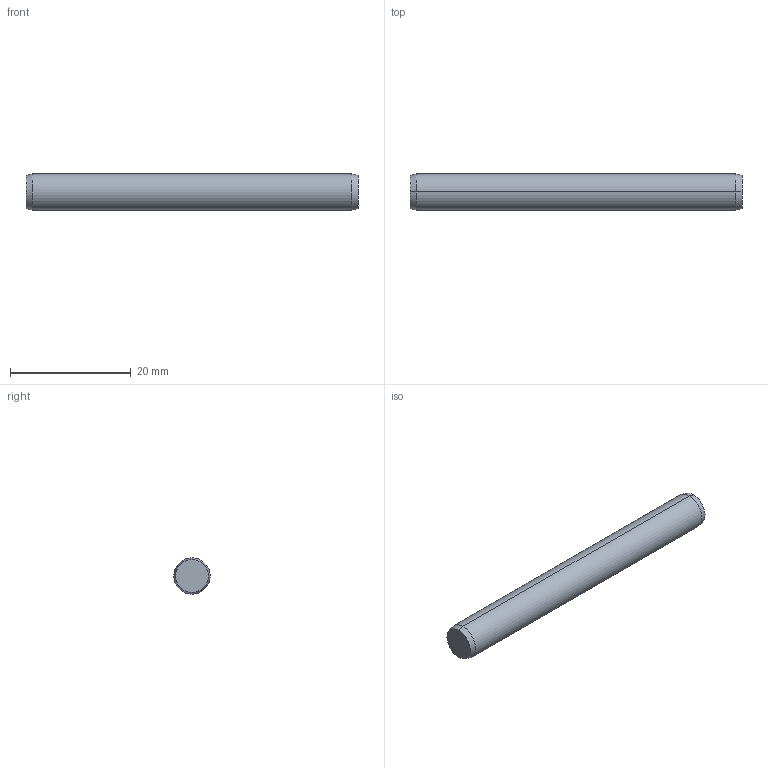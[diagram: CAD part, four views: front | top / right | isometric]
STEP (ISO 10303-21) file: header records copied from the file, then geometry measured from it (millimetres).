
FILE_DESCRIPTION (( 'STEP AP203' ), '1' );
FILE_NAME ('P1206.060-055.step', '2017-06-14T08:23:21', ( 'User' ), ( '' ), 'SwSTEP 2.0', 'SolidWorks 2009', '' );
FILE_SCHEMA (( 'CONFIG_CONTROL_DESIGN' ));
Length unit declared in the file: millimetre
Products named in the file (1): P1206.060-055
Bounding box: 55 x 6 x 6 mm (x, y, z)
Volume: 1550.2 mm3; surface area: 1083.2 mm2
Topology: 1 solids, 1 shells, 8 faces, 14 edges, 8 vertices
Faces by surface type: cone 4, cylinder 2, plane 2
Entity records: 271 total; most frequent: DIRECTION 40, CARTESIAN_POINT 31, ORIENTED_EDGE 28, AXIS2_PLACEMENT_3D 17, EDGE_CURVE 14, ADVANCED_FACE 8, EDGE_LOOP 8, VERTEX_POINT 8
